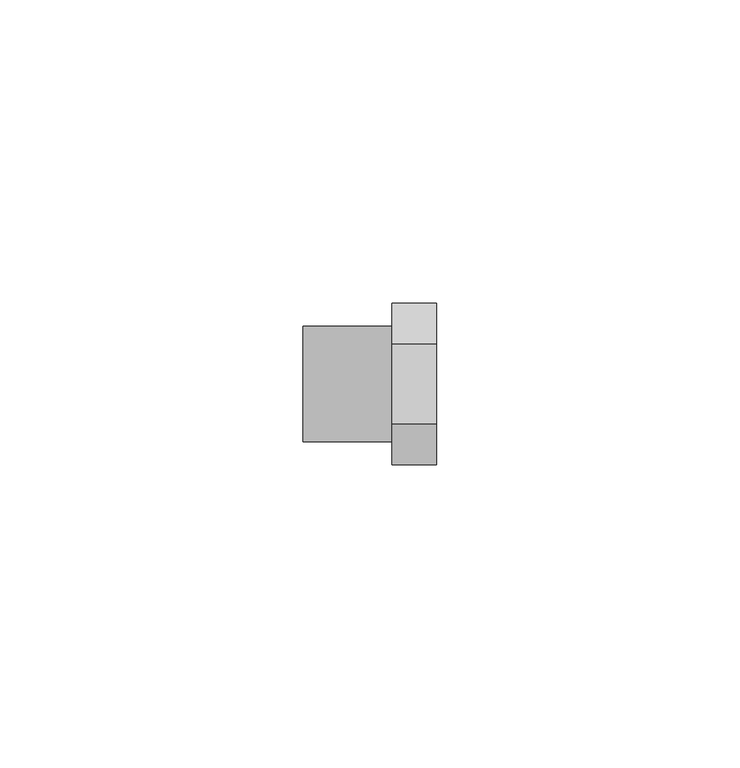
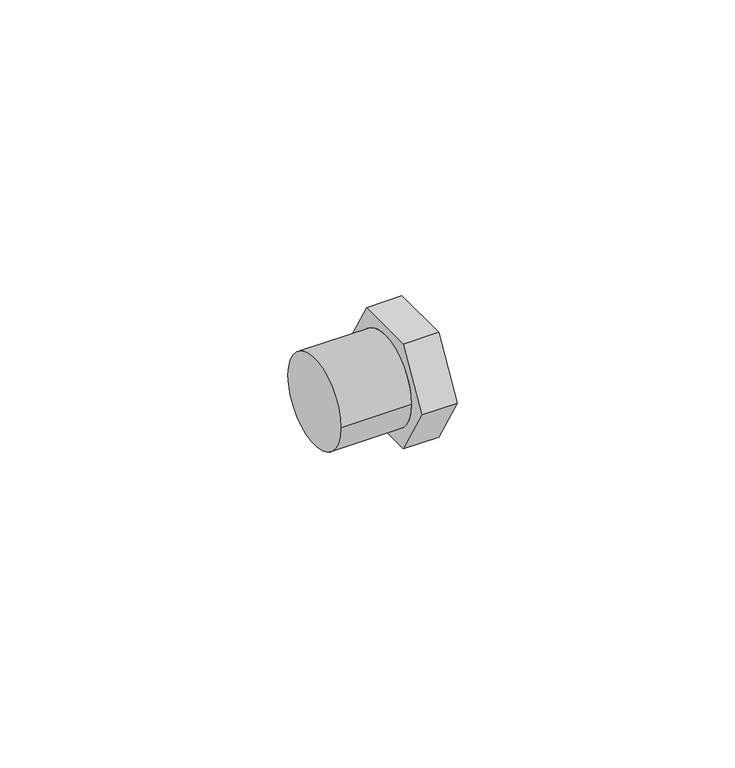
"""IFC4 building model written with IfcOpenShell, lengths in millimetres: pipe fitting geometry, 01011080 : Reducciones curtas M/F."""

import ifcopenshell
import ifcopenshell.guid

model = None  # the IFC model being written
_history = None  # IfcOwnerHistory: only IFC2X3 demands one
_inside = {}  # id of a spatial element -> (the spatial element, [elements in it])
_under = {}  # id of a project, library or spatial element -> (it, [spatial elements below it])
_declared = {}  # id of a project -> (the project, [libraries it declares])
_typed = {}  # id of a type object -> (the type object, [elements of that type])
_made_of = {}  # id of a material, layer set ... -> (it, [elements and type objects made of it])


def new_model(schema):
    """Start an empty IFC model of exactly this schema.

    Asked for "IFC4X3", IfcOpenShell would pick the latest addendum, in which some entities
    have other attributes; the version numbers below select the first issue.
    IFC2X3 requires an IfcOwnerHistory on every rooted entity: one is made here for all.
    """
    global model, _history
    if schema == "IFC4X3":
        model = ifcopenshell.file(schema_version=(4, 3, 0, 0))
    else:
        model = ifcopenshell.file(schema=schema)
    _inside.clear()
    _under.clear()
    _declared.clear()
    _typed.clear()
    _made_of.clear()
    _history = None
    if model.schema == "IFC2X3":
        org = make("IfcOrganization", Name="unknown")
        user = make(
            "IfcPersonAndOrganization",
            ThePerson=make("IfcPerson", FamilyName="unknown"),
            TheOrganization=org,
        )
        app = make(
            "IfcApplication",
            ApplicationDeveloper=org,
            Version="unknown",
            ApplicationFullName="unknown",
            ApplicationIdentifier="unknown",
        )
        _history = make(
            "IfcOwnerHistory",
            OwningUser=user,
            OwningApplication=app,
            ChangeAction="ADDED",
            CreationDate=0,
        )
    return model


def make(cls, **values):
    """One entity of the class cls with the attributes given. An attribute that is None is left unset."""
    return model.create_entity(
        cls, **{name: value for name, value in values.items() if value is not None}
    )


def rooted(cls, **values):
    """An entity with a GlobalId (a new one), such as an element, a storey or a relation."""
    return make(cls, GlobalId=ifcopenshell.guid.new(), OwnerHistory=_history, **values)


def si_unit(unit_type, name, prefix=None):
    """IfcSIUnit, for example si_unit("LENGTHUNIT", "METRE", prefix="MILLI")."""
    return make("IfcSIUnit", UnitType=unit_type, Prefix=prefix, Name=name)


def assignment(units):
    """IfcUnitAssignment: the units of a project."""
    return None if units is None else make("IfcUnitAssignment", Units=units)


def point(xyz):
    """IfcCartesianPoint."""
    return None if xyz is None else make("IfcCartesianPoint", Coordinates=xyz)


def direction(xyz):
    """IfcDirection."""
    return None if xyz is None else make("IfcDirection", DirectionRatios=xyz)


def frame(location, z_axis=None, x_axis=None):
    """IfcAxis2Placement3D, a coordinate frame: its origin and axes. An axis left out is left unset."""
    return make(
        "IfcAxis2Placement3D",
        Location=point(location),
        Axis=direction(z_axis),
        RefDirection=direction(x_axis),
    )


def frame_2d(location, x_axis=None):
    """IfcAxis2Placement2D, a coordinate frame in the plane: its origin and x axis."""
    return make(
        "IfcAxis2Placement2D", Location=point(location), RefDirection=direction(x_axis)
    )


def origin():
    """The frame at (0, 0, 0) with its axes left unset."""
    return frame((0.0, 0.0, 0.0))


def origin_2d():
    """The frame at (0, 0) in the plane with its x axis left unset."""
    return frame_2d((0.0, 0.0))


def place(relative_to, where):
    """IfcLocalPlacement: puts the frame where relative to a parent placement (None: the world)."""
    return make(
        "IfcLocalPlacement", PlacementRelTo=relative_to, RelativePlacement=where
    )


def context(
    kind, dimensions, precision=None, world=None, true_north=None, identifier=None
):
    """IfcGeometricRepresentationContext, for example the 3D "Model" context."""
    return make(
        "IfcGeometricRepresentationContext",
        ContextIdentifier=identifier,
        ContextType=kind,
        CoordinateSpaceDimension=dimensions,
        Precision=precision,
        WorldCoordinateSystem=world,
        TrueNorth=true_north,
    )


def project(units=None, contexts=None):
    """IfcProject with its units and contexts."""
    return rooted(
        "IfcProject",
        Name="project",
        RepresentationContexts=contexts,
        UnitsInContext=assignment(units),
    )


def spatial(cls, under=None, at=None, **own):
    """A site, building, storey or space (cls), placed at a placement, below another one or the project."""
    s = rooted(cls, ObjectPlacement=at, **own)
    if under is not None:
        _under.setdefault(under.id(), (under, []))[1].append(s)
    return s


def circle_curve(where, radius):
    """IfcCircle in the frame where."""
    return make("IfcCircle", Position=where, Radius=radius)


def trimmed(basis, trim1, trim2, sense, master):
    """IfcTrimmedCurve: the piece of a basis curve between two trims."""
    return make(
        "IfcTrimmedCurve",
        BasisCurve=basis,
        Trim1=trim1,
        Trim2=trim2,
        SenseAgreement=sense,
        MasterRepresentation=master,
    )


def segment(curve, same_sense, transition):
    """IfcCompositeCurveSegment."""
    return make(
        "IfcCompositeCurveSegment",
        Transition=transition,
        SameSense=same_sense,
        ParentCurve=curve,
    )


def composite_curve(segments, self_intersect=None):
    """IfcCompositeCurve: segments joined end to end."""
    return make("IfcCompositeCurve", Segments=segments, SelfIntersect=self_intersect)


def outline(outer, holes=None, kind="AREA"):
    """IfcArbitraryClosedProfileDef: a profile drawn as a closed curve; with holes, ...WithVoids."""
    if holes is None:
        return make("IfcArbitraryClosedProfileDef", ProfileType=kind, OuterCurve=outer)
    return make(
        "IfcArbitraryProfileDefWithVoids",
        ProfileType=kind,
        OuterCurve=outer,
        InnerCurves=holes,
    )


def extrude(swept, where, along, depth):
    """IfcExtrudedAreaSolid: the profile swept, set in the frame where, extruded along a direction by depth."""
    return make(
        "IfcExtrudedAreaSolid",
        SweptArea=swept,
        Position=where,
        ExtrudedDirection=direction(along),
        Depth=depth,
    )


def shape(context_of_items, identifier, shape_type, items):
    """IfcShapeRepresentation: the items that make up one representation, for example the "Body"."""
    return make(
        "IfcShapeRepresentation",
        ContextOfItems=context_of_items,
        RepresentationIdentifier=identifier,
        RepresentationType=shape_type,
        Items=items,
    )


def source(mapping_origin, context_of_items, identifier, shape_type, items):
    """IfcRepresentationMap: a shape defined once, which mapped items show again and again."""
    return make(
        "IfcRepresentationMap",
        MappingOrigin=mapping_origin,
        MappedRepresentation=shape(context_of_items, identifier, shape_type, items),
    )


def transform(
    local_origin,
    x_axis=None,
    y_axis=None,
    z_axis=None,
    scale=None,
    scale2=None,
    scale3=None,
    uniform=True,
):
    """IfcCartesianTransformationOperator3D, or its non-uniform kind. x_axis, y_axis, z_axis: its Axis1, 2, 3."""
    if uniform:
        return make(
            "IfcCartesianTransformationOperator3D",
            Axis1=direction(x_axis),
            Axis2=direction(y_axis),
            LocalOrigin=point(local_origin),
            Scale=scale,
            Axis3=direction(z_axis),
        )
    return make(
        "IfcCartesianTransformationOperator3DnonUniform",
        Axis1=direction(x_axis),
        Axis2=direction(y_axis),
        LocalOrigin=point(local_origin),
        Scale=scale,
        Axis3=direction(z_axis),
        Scale2=scale2,
        Scale3=scale3,
    )


def mapped(mapping_source, mapping_target):
    """IfcMappedItem: shows the shape of a source again, moved by a transform."""
    return make(
        "IfcMappedItem", MappingSource=mapping_source, MappingTarget=mapping_target
    )


def made_of(thing, what):
    """Note that an element or type object is made of a material, layer set ...; save() writes the relation."""
    if what is not None:
        _made_of.setdefault(what.id(), (what, []))[1].append(thing)
    return thing


def element(
    cls,
    number,
    at=None,
    inside=None,
    cuts=None,
    type_object=None,
    material=None,
    context=None,
    identifier="Body",
    shape_type=None,
    held_by="IfcProductDefinitionShape",
    body=None,
    shapes=None,
    **own,
):
    """One element of the class cls, such as IfcWall. Its Tag is "e" and its number.

    at: its placement. inside: the storey or other place that contains it. cuts: it is an
    opening in that element (IfcRelVoidsElement). A single representation is given by context,
    identifier, shape_type and body (its items); several are given by shapes. held_by: the class
    of the entity that holds the representations. save() writes the other relations.
    """
    e = rooted(cls, Tag="e%d" % number, ObjectPlacement=at, **own)
    if body is not None:
        shapes = [shape(context, identifier, shape_type, body)]
    if shapes is not None:
        e.Representation = make(held_by, Representations=shapes)
    if inside is not None:
        _inside.setdefault(inside.id(), (inside, []))[1].append(e)
    if cuts is not None:
        rooted(
            "IfcRelVoidsElement", RelatingBuildingElement=cuts, RelatedOpeningElement=e
        )
    if type_object is not None:
        _typed.setdefault(type_object.id(), (type_object, []))[1].append(e)
    return made_of(e, material)


def aggregate(whole, parts):
    """IfcRelAggregates: a whole, such as a stair, and the parts it consists of."""
    return rooted("IfcRelAggregates", RelatingObject=whole, RelatedObjects=parts)


def save(model, path):
    """Write the relations noted so far, then the file.

    IfcRelAggregates (storeys below a building ...), IfcRelContainedInSpatialStructure (elements
    in a storey), IfcRelDefinesByType, IfcRelAssociatesMaterial and IfcRelDeclares: one each for
    every whole, place, type object, material and project.
    """
    for whole, parts in _under.values():
        aggregate(whole, parts)
    for where, things in _inside.values():
        rooted(
            "IfcRelContainedInSpatialStructure",
            RelatedElements=things,
            RelatingStructure=where,
        )
    for kind, things in _typed.values():
        rooted("IfcRelDefinesByType", RelatedObjects=things, RelatingType=kind)
    for what, things in _made_of.values():
        rooted("IfcRelAssociatesMaterial", RelatedObjects=things, RelatingMaterial=what)
    for by, libraries in _declared.values():
        rooted("IfcRelDeclares", RelatingContext=by, RelatedDefinitions=libraries)
    model.write(path)


def plane_surface(at):
    """IfcPlane: the flat surface through the origin of the frame at, square to its z axis."""
    return make("IfcPlane", Position=at)


def cylinder_surface(at, radius):
    """IfcCylindricalSurface: all points at the distance radius from the z axis of the frame at."""
    return make("IfcCylindricalSurface", Position=at, Radius=radius)


def advanced_brep(points, edges, surfaces, faces):
    """IfcAdvancedBrep: a solid bounded by faces that lie on surfaces and meet in shared edges.

    An edge is (start, end): straight between two places in points (the first is 0);
    or (start, end, curve); or (start, end, curve, False) where it runs against its curve.
    A face is (place in surfaces, loops), or (place, loops, False) where it looks against
    its surface's normal. A loop lists edges by number (the first is 1), with a minus sign
    where the edge is run from its end to its start. The first loop is the outer one.
    """
    corners = [point(p) for p in points]
    vertices = [make("IfcVertexPoint", VertexGeometry=c) for c in corners]
    made = []
    for start, end, *more in edges:
        made.append(
            make(
                "IfcEdgeCurve",
                EdgeStart=vertices[start],
                EdgeEnd=vertices[end],
                EdgeGeometry=more[0] if more else make("IfcPolyline", Points=[corners[start], corners[end]]),
                SameSense=more[1] if len(more) > 1 else True,
            )
        )
    hull = []
    for where, loops, *sense in faces:
        bounds = []
        for j, loop in enumerate(loops):
            ring = [make("IfcOrientedEdge", EdgeElement=made[abs(k) - 1], Orientation=k > 0) for k in loop]
            bounds.append(
                make(
                    "IfcFaceOuterBound" if j == 0 else "IfcFaceBound",
                    Bound=make("IfcEdgeLoop", EdgeList=ring),
                    Orientation=True,
                )
            )
        hull.append(make("IfcAdvancedFace", Bounds=bounds, FaceSurface=surfaces[where], SameSense=sense[0] if sense else True))
    return make("IfcAdvancedBrep", Outer=make("IfcClosedShell", CfsFaces=hull))


def pipe_fitting_5475ad67(model_context):
    return source(origin(), model_context, "Body", "SolidModel", [
        extrude(outline(composite_curve([segment(trimmed(circle_curve(origin_2d(), 9.525), [point((-9.525, 0.0))], [point((9.525, 0.0))], False, "CARTESIAN"), True, "CONTINUOUS"), segment(trimmed(circle_curve(origin_2d(), 9.525), [point((9.525, 0.0))], [point((-9.525, 0.0))], False, "CARTESIAN"), True, "CONTINUOUS")], self_intersect=False)), frame((0.0, 0.0, 0.0), z_axis=(1.0, 0.0, 0.0), x_axis=(0.0, 1.0, 0.0)), (0.0, 0.0, 1.0), 14.6666667),
        advanced_brep(
        [(22.0, -6.6395281, 11.5), (22.0, -13.2790562, 0.0), (22.0, -6.6395281, -11.5), (22.0, 6.6395281, -11.5), (22.0, 13.2790562, 0.0), (22.0, 6.6395281, 11.5), (14.6666667, -6.6395281, 11.5), (14.6666667, 6.6395281, 11.5), (14.6666667, 13.2790562, 0.0), (14.6666667, 6.6395281, -11.5), (14.6666667, -6.6395281, -11.5), (14.6666667, -13.2790562, 0.0), (14.6666667, 9.525, 0.0), (14.6666667, -9.525, 0.0), (0.0, 9.525, 0.0), (0.0, -9.525, 0.0)],
        [
            (0, 1),
            (1, 2),
            (2, 3),
            (3, 4),
            (4, 5),
            (5, 0),
            (6, 7),
            (7, 8),
            (8, 9),
            (9, 10),
            (10, 11),
            (11, 6),
            (12, 13, circle_curve(frame((14.6666667, 0.0, 0.0), z_axis=(1.0, 0.0, 0.0), x_axis=(0.0, 1.0, 0.0)), 9.525)),
            (13, 12, circle_curve(frame((14.6666667, 0.0, 0.0), z_axis=(1.0, 0.0, 0.0), x_axis=(0.0, 1.0, 0.0)), 9.525)),
            (0, 6),
            (11, 1),
            (10, 2),
            (9, 3),
            (8, 4),
            (7, 5),
            (14, 15, circle_curve(frame((0.0, 0.0, 0.0), z_axis=(1.0, 0.0, 0.0), x_axis=(0.0, 1.0, 0.0)), 9.525)),
            (15, 13),
            (12, 14),
            (15, 14, circle_curve(frame((0.0, 0.0, 0.0), z_axis=(1.0, 0.0, 0.0), x_axis=(0.0, 1.0, 0.0)), 9.525)),
        ],
        [
            plane_surface(frame((22.0, -6.6395281, 11.5), z_axis=(1.0, 0.0, 0.0), x_axis=(0.0, -0.5000000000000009, -0.8660254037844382))),
            plane_surface(frame((14.6666667, -6.6395281, 11.5), z_axis=(-1.0, 0.0, 0.0), x_axis=(0.0, 0.5000000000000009, 0.8660254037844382))),
            plane_surface(frame((22.0, -6.6395281, 11.5), z_axis=(0.0, -0.8660254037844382, 0.5000000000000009), x_axis=(-1.0, 0.0, 0.0))),
            plane_surface(frame((22.0, -13.2790562, 0.0), z_axis=(0.0, -0.8660254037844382, -0.500000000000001), x_axis=(-1.0, 0.0, 0.0))),
            plane_surface(frame((22.0, -6.6395281, -11.5), z_axis=(0.0, 0.0, -1.0), x_axis=(-1.0, 0.0, 0.0))),
            plane_surface(frame((22.0, 6.6395281, -11.5), z_axis=(0.0, 0.8660254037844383, -0.5000000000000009), x_axis=(-1.0, 0.0, 0.0))),
            plane_surface(frame((22.0, 13.2790562, 0.0), z_axis=(0.0, 0.8660254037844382, 0.500000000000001), x_axis=(-1.0, 0.0, 0.0))),
            plane_surface(frame((22.0, 6.6395281, 11.5), z_axis=(0.0, 0.0, 1.0), x_axis=(-1.0, 0.0, 0.0))),
            cylinder_surface(frame((0.0, 0.0, 0.0), z_axis=(-1.0, 0.0, 0.0), x_axis=(0.0, 1.0, 0.0)), 9.525),
            plane_surface(frame((0.0, 0.0, 0.0), z_axis=(-1.0, 0.0, 0.0), x_axis=(0.0, 0.0, 1.0))),
        ],
        [
            (0, [[1, 2, 3, 4, 5, 6]]),
            (1, [[7, 8, 9, 10, 11, 12], [13, 14]]),
            (2, [[-1, 15, -12, 16]]),
            (3, [[-2, -16, -11, 17]]),
            (4, [[-3, -17, -10, 18]]),
            (5, [[-4, -18, -9, 19]]),
            (6, [[-5, -19, -8, 20]]),
            (7, [[-6, -20, -7, -15]]),
            (8, [[21, 22, -13, 23]]),
            (8, [[24, -23, -14, -22]]),
            (9, [[-21, -24]]),
        ],
    ),
    ])


if __name__ == "__main__":
    model = new_model("IFC4")
    model_context = context("Model", 3, world=origin())
    ifc_project = project(units=[si_unit("LENGTHUNIT", "METRE", prefix="MILLI")], contexts=[model_context])
    site = spatial("IfcSite", under=ifc_project)
    building = spatial("IfcBuilding", under=site)
    placement = place(None, origin())
    pipe_fitting_shape = pipe_fitting_5475ad67(model_context)
    element("IfcPipeFitting", 1, ObjectType="01011080 : Reducciones curtas M/F", at=placement, inside=building, context=model_context, shape_type="MappedRepresentation", body=[
        mapped(pipe_fitting_shape, transform((0.0, 0.0, 0.0), x_axis=(1.0, 0.0, 0.0), y_axis=(0.0, 1.0, 0.0), z_axis=(0.0, 0.0, 1.0))),
    ])
    save(model, "model.ifc")
